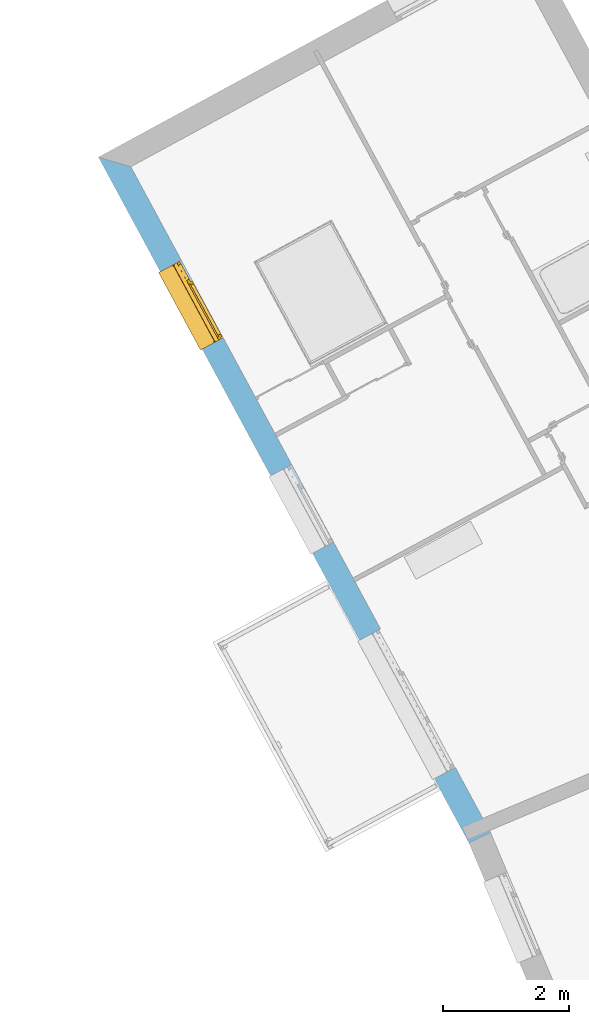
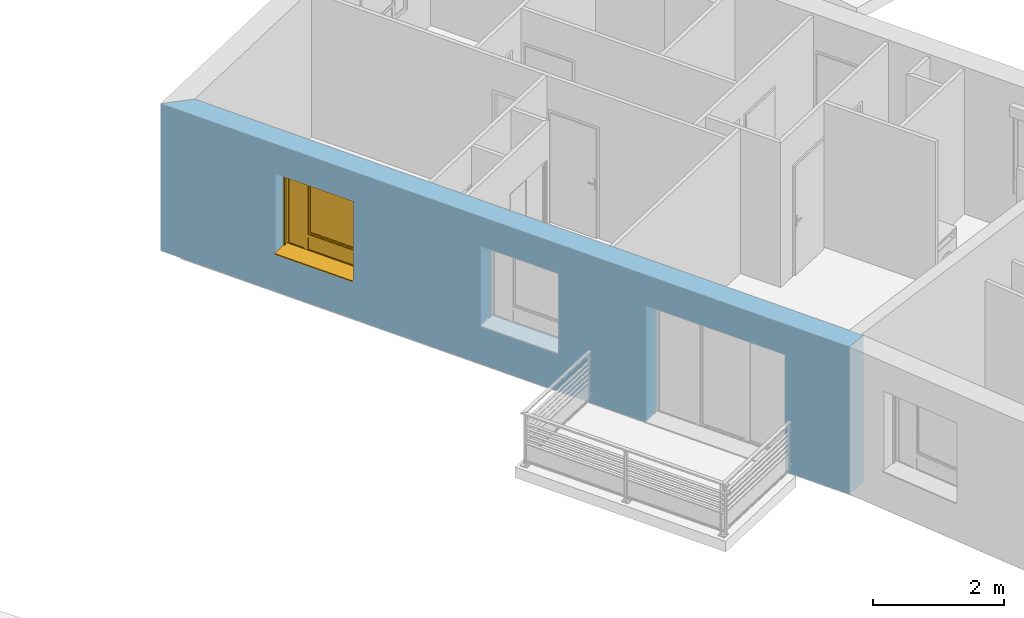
# One storey, part 52 of 121: 1 window, 3 openings, plus 1 element that does not belong to this part.
"""IFC2X3 building model written with IfcOpenShell, lengths in metres."""

import ifcopenshell
import ifcopenshell.guid

model = None  # the IFC model being written
_history = None  # IfcOwnerHistory: only IFC2X3 demands one
_inside = {}  # id of a spatial element -> (the spatial element, [elements in it])
_under = {}  # id of a project, library or spatial element -> (it, [spatial elements below it])
_declared = {}  # id of a project -> (the project, [libraries it declares])
_typed = {}  # id of a type object -> (the type object, [elements of that type])
_made_of = {}  # id of a material, layer set ... -> (it, [elements and type objects made of it])


def new_model(schema):
    """Start an empty IFC model of exactly this schema.

    Asked for "IFC4X3", IfcOpenShell would pick the latest addendum, in which some entities
    have other attributes; the version numbers below select the first issue.
    IFC2X3 requires an IfcOwnerHistory on every rooted entity: one is made here for all.
    """
    global model, _history
    if schema == "IFC4X3":
        model = ifcopenshell.file(schema_version=(4, 3, 0, 0))
    else:
        model = ifcopenshell.file(schema=schema)
    _inside.clear()
    _under.clear()
    _declared.clear()
    _typed.clear()
    _made_of.clear()
    _history = None
    if model.schema == "IFC2X3":
        org = make("IfcOrganization", Name="unknown")
        user = make(
            "IfcPersonAndOrganization",
            ThePerson=make("IfcPerson", FamilyName="unknown"),
            TheOrganization=org,
        )
        app = make(
            "IfcApplication",
            ApplicationDeveloper=org,
            Version="unknown",
            ApplicationFullName="unknown",
            ApplicationIdentifier="unknown",
        )
        _history = make(
            "IfcOwnerHistory",
            OwningUser=user,
            OwningApplication=app,
            ChangeAction="ADDED",
            CreationDate=0,
        )
    return model


def make(cls, **values):
    """One entity of the class cls with the attributes given. An attribute that is None is left unset."""
    return model.create_entity(
        cls, **{name: value for name, value in values.items() if value is not None}
    )


def entity(cls, *values):
    """Any entity or typed value of the class cls, its attributes in the order of the schema. None: left unset."""
    e = model.create_entity(cls)
    for i, value in enumerate(values):
        if value is not None:
            e[i] = value
    return e


def rooted(cls, **values):
    """An entity with a GlobalId (a new one), such as an element, a storey or a relation."""
    return make(cls, GlobalId=ifcopenshell.guid.new(), OwnerHistory=_history, **values)


def si_unit(unit_type, name, prefix=None):
    """IfcSIUnit, for example si_unit("LENGTHUNIT", "METRE", prefix="MILLI")."""
    return make("IfcSIUnit", UnitType=unit_type, Prefix=prefix, Name=name)


def converted_unit(unit_type, name, factor, base, dimensions=None, offset=None):
    """IfcConversionBasedUnit, such as the inch: factor (a typed value) times the base unit."""
    return make(
        "IfcConversionBasedUnit"
        if offset is None
        else "IfcConversionBasedUnitWithOffset",
        ConversionOffset=offset,
        Dimensions=None
        if dimensions is None
        else entity("IfcDimensionalExponents", *dimensions),
        UnitType=unit_type,
        Name=name,
        ConversionFactor=make(
            "IfcMeasureWithUnit", ValueComponent=factor, UnitComponent=base
        ),
    )


def derived_unit(unit_type, elements):
    """IfcDerivedUnit: a product of units, each with its exponent."""
    return make(
        "IfcDerivedUnit",
        Elements=[
            make("IfcDerivedUnitElement", Unit=unit, Exponent=power)
            for unit, power in elements
        ],
        UnitType=unit_type,
    )


def money_unit(currency):
    """IfcMonetaryUnit."""
    return make("IfcMonetaryUnit", Currency=currency)


def assignment(units):
    """IfcUnitAssignment: the units of a project."""
    return None if units is None else make("IfcUnitAssignment", Units=units)


def point(xyz):
    """IfcCartesianPoint."""
    return None if xyz is None else make("IfcCartesianPoint", Coordinates=xyz)


def direction(xyz):
    """IfcDirection."""
    return None if xyz is None else make("IfcDirection", DirectionRatios=xyz)


def frame(location, z_axis=None, x_axis=None):
    """IfcAxis2Placement3D, a coordinate frame: its origin and axes. An axis left out is left unset."""
    return make(
        "IfcAxis2Placement3D",
        Location=point(location),
        Axis=direction(z_axis),
        RefDirection=direction(x_axis),
    )


def origin_with_axes():
    """The frame at (0, 0, 0) with the z axis (0, 0, 1) and the x axis (1, 0, 0) written out."""
    return frame((0.0, 0.0, 0.0), z_axis=(0.0, 0.0, 1.0), x_axis=(1.0, 0.0, 0.0))


def place(relative_to, where):
    """IfcLocalPlacement: puts the frame where relative to a parent placement (None: the world)."""
    return make(
        "IfcLocalPlacement", PlacementRelTo=relative_to, RelativePlacement=where
    )


def context(
    kind, dimensions, precision=None, world=None, true_north=None, identifier=None
):
    """IfcGeometricRepresentationContext, for example the 3D "Model" context."""
    return make(
        "IfcGeometricRepresentationContext",
        ContextIdentifier=identifier,
        ContextType=kind,
        CoordinateSpaceDimension=dimensions,
        Precision=precision,
        WorldCoordinateSystem=world,
        TrueNorth=true_north,
    )


def subcontext(parent, identifier, kind, view, scale=None):
    """IfcGeometricRepresentationSubContext, for example "Body" below "Model"."""
    return make(
        "IfcGeometricRepresentationSubContext",
        ContextIdentifier=identifier,
        ContextType=kind,
        ParentContext=parent,
        TargetScale=scale,
        TargetView=view,
    )


def project(units=None, contexts=None):
    """IfcProject with its units and contexts."""
    return rooted(
        "IfcProject",
        Name="project",
        RepresentationContexts=contexts,
        UnitsInContext=assignment(units),
    )


def spatial(cls, under=None, at=None, **own):
    """A site, building, storey or space (cls), placed at a placement, below another one or the project."""
    s = rooted(cls, ObjectPlacement=at, **own)
    if under is not None:
        _under.setdefault(under.id(), (under, []))[1].append(s)
    return s


def polyline(points):
    """IfcPolyline through the points."""
    return make("IfcPolyline", Points=[point(p) for p in points])


def outline(outer, holes=None, kind="AREA"):
    """IfcArbitraryClosedProfileDef: a profile drawn as a closed curve; with holes, ...WithVoids."""
    if holes is None:
        return make("IfcArbitraryClosedProfileDef", ProfileType=kind, OuterCurve=outer)
    return make(
        "IfcArbitraryProfileDefWithVoids",
        ProfileType=kind,
        OuterCurve=outer,
        InnerCurves=holes,
    )


def extrude(swept, where, along, depth):
    """IfcExtrudedAreaSolid: the profile swept, set in the frame where, extruded along a direction by depth."""
    return make(
        "IfcExtrudedAreaSolid",
        SweptArea=swept,
        Position=where,
        ExtrudedDirection=direction(along),
        Depth=depth,
    )


def faces_of(points, faces, orient=None, outer=None):
    """IfcFace entities. A face is a list of loops; a loop is a list of indices into points, from 0.

    orient and outer hold one flag for each loop. By default every Orientation is true, the
    first loop of a face is its IfcFaceOuterBound and the others are IfcFaceBound.
    """
    made = []
    for i, loops in enumerate(faces):
        bounds = []
        for j, loop in enumerate(loops):
            is_outer = j == 0 if outer is None else outer[i][j]
            bounds.append(
                make(
                    "IfcFaceOuterBound" if is_outer else "IfcFaceBound",
                    Bound=make("IfcPolyLoop", Polygon=[points[k] for k in loop]),
                    Orientation=True if orient is None else orient[i][j],
                )
            )
        made.append(make("IfcFace", Bounds=bounds))
    return made


def open_shell(faces, orient=None, outer=None):
    """The faces of one IfcOpenShell. surface_model builds it on its shared points."""
    return ("IfcOpenShell", faces, orient, outer)


def faceted_brep(points, faces, orient=None, outer=None, voids=None):
    """IfcFacetedBrep: a solid bounded by flat faces; with voids (closed shells), ...WithVoids."""
    shared = [point(p) for p in points]
    hull = make("IfcClosedShell", CfsFaces=faces_of(shared, faces, orient, outer))
    if voids is None:
        return make("IfcFacetedBrep", Outer=hull)
    return make(
        "IfcFacetedBrepWithVoids",
        Outer=hull,
        Voids=[
            make(cls, CfsFaces=faces_of(shared, fs, o, b)) for cls, fs, o, b in voids
        ],
    )


def surface_model(cls, points, shells):
    """IfcFaceBasedSurfaceModel or IfcShellBasedSurfaceModel (cls): surfaces that need not close."""
    shared = [point(p) for p in points]
    made = [make(c, CfsFaces=faces_of(shared, fs, o, b)) for c, fs, o, b in shells]
    if cls == "IfcFaceBasedSurfaceModel":
        return make(cls, FbsmFaces=made)
    return make(cls, SbsmBoundary=made)


def shape(context_of_items, identifier, shape_type, items):
    """IfcShapeRepresentation: the items that make up one representation, for example the "Body"."""
    return make(
        "IfcShapeRepresentation",
        ContextOfItems=context_of_items,
        RepresentationIdentifier=identifier,
        RepresentationType=shape_type,
        Items=items,
    )


def source(mapping_origin, context_of_items, identifier, shape_type, items):
    """IfcRepresentationMap: a shape defined once, which mapped items show again and again."""
    return make(
        "IfcRepresentationMap",
        MappingOrigin=mapping_origin,
        MappedRepresentation=shape(context_of_items, identifier, shape_type, items),
    )


def transform(
    local_origin,
    x_axis=None,
    y_axis=None,
    z_axis=None,
    scale=None,
    scale2=None,
    scale3=None,
    uniform=True,
):
    """IfcCartesianTransformationOperator3D, or its non-uniform kind. x_axis, y_axis, z_axis: its Axis1, 2, 3."""
    if uniform:
        return make(
            "IfcCartesianTransformationOperator3D",
            Axis1=direction(x_axis),
            Axis2=direction(y_axis),
            LocalOrigin=point(local_origin),
            Scale=scale,
            Axis3=direction(z_axis),
        )
    return make(
        "IfcCartesianTransformationOperator3DnonUniform",
        Axis1=direction(x_axis),
        Axis2=direction(y_axis),
        LocalOrigin=point(local_origin),
        Scale=scale,
        Axis3=direction(z_axis),
        Scale2=scale2,
        Scale3=scale3,
    )


def mapped(mapping_source, mapping_target):
    """IfcMappedItem: shows the shape of a source again, moved by a transform."""
    return make(
        "IfcMappedItem", MappingSource=mapping_source, MappingTarget=mapping_target
    )


def material(Name=None, Category=None):
    """IfcMaterial."""
    return make("IfcMaterial", Name=Name, Category=Category)


def layer(
    of_material, thickness, ventilated=None, Name=None, Category=None, Priority=None
):
    """IfcMaterialLayer: one layer of a wall or slab, of a material (None: an air gap)."""
    return make(
        "IfcMaterialLayer",
        Material=of_material,
        LayerThickness=thickness,
        IsVentilated=ventilated,
        Name=Name,
        Category=Category,
        Priority=Priority,
    )


def layer_set(layers, Name=None):
    """IfcMaterialLayerSet."""
    return make("IfcMaterialLayerSet", MaterialLayers=layers, LayerSetName=Name)


def layer_usage(for_layer_set, set_direction, sense, offset, extent=None):
    """IfcMaterialLayerSetUsage: how a layer set lies in its element."""
    return make(
        "IfcMaterialLayerSetUsage",
        ForLayerSet=for_layer_set,
        LayerSetDirection=set_direction,
        DirectionSense=sense,
        OffsetFromReferenceLine=offset,
        ReferenceExtent=extent,
    )


def made_of(thing, what):
    """Note that an element or type object is made of a material, layer set ...; save() writes the relation."""
    if what is not None:
        _made_of.setdefault(what.id(), (what, []))[1].append(thing)
    return thing


def type_object(cls, material=None, **own):
    """A type object (cls), such as IfcWallType, which elements share."""
    return made_of(rooted(cls, **own), material)


def element(
    cls,
    number,
    at=None,
    inside=None,
    cuts=None,
    type_object=None,
    material=None,
    context=None,
    identifier="Body",
    shape_type=None,
    held_by="IfcProductDefinitionShape",
    body=None,
    shapes=None,
    **own,
):
    """One element of the class cls, such as IfcWall. Its Tag is "e" and its number.

    at: its placement. inside: the storey or other place that contains it. cuts: it is an
    opening in that element (IfcRelVoidsElement). A single representation is given by context,
    identifier, shape_type and body (its items); several are given by shapes. held_by: the class
    of the entity that holds the representations. save() writes the other relations.
    """
    e = rooted(cls, Tag="e%d" % number, ObjectPlacement=at, **own)
    if body is not None:
        shapes = [shape(context, identifier, shape_type, body)]
    if shapes is not None:
        e.Representation = make(held_by, Representations=shapes)
    if inside is not None:
        _inside.setdefault(inside.id(), (inside, []))[1].append(e)
    if cuts is not None:
        rooted(
            "IfcRelVoidsElement", RelatingBuildingElement=cuts, RelatedOpeningElement=e
        )
    if type_object is not None:
        _typed.setdefault(type_object.id(), (type_object, []))[1].append(e)
    return made_of(e, material)


def fill(opening, filler):
    """IfcRelFillsElement: the door or window that sits in an opening."""
    return rooted(
        "IfcRelFillsElement",
        RelatingOpeningElement=opening,
        RelatedBuildingElement=filler,
    )


def aggregate(whole, parts):
    """IfcRelAggregates: a whole, such as a stair, and the parts it consists of."""
    return rooted("IfcRelAggregates", RelatingObject=whole, RelatedObjects=parts)


def save(model, path):
    """Write the relations noted so far, then the file.

    IfcRelAggregates (storeys below a building ...), IfcRelContainedInSpatialStructure (elements
    in a storey), IfcRelDefinesByType, IfcRelAssociatesMaterial and IfcRelDeclares: one each for
    every whole, place, type object, material and project.
    """
    for whole, parts in _under.values():
        aggregate(whole, parts)
    for where, things in _inside.values():
        rooted(
            "IfcRelContainedInSpatialStructure",
            RelatedElements=things,
            RelatingStructure=where,
        )
    for kind, things in _typed.values():
        rooted("IfcRelDefinesByType", RelatedObjects=things, RelatingType=kind)
    for what, things in _made_of.values():
        rooted("IfcRelAssociatesMaterial", RelatedObjects=things, RelatingMaterial=what)
    for by, libraries in _declared.values():
        rooted("IfcRelDeclares", RelatingContext=by, RelatedDefinitions=libraries)
    model.write(path)


model = new_model("IFC2X3")

# Units and contexts
model_context = context("Model", 3, precision=1e-05, world=origin_with_axes(), true_north=direction((0.0, 1.0)))
body_context = subcontext(model_context, "Body", "Model", "MODEL_VIEW")
ifc_project = project(units=[si_unit("LENGTHUNIT", "METRE"), si_unit("AREAUNIT", "SQUARE_METRE"), si_unit("VOLUMEUNIT", "CUBIC_METRE"), converted_unit("PLANEANGLEUNIT", "DEGREE", entity("IfcPlaneAngleMeasure", 0.0174532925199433), si_unit("PLANEANGLEUNIT", "RADIAN"), dimensions=[0, 0, 0, 0, 0, 0, 0]), money_unit("CHF"), converted_unit("TIMEUNIT", "Year", entity("IfcTimeMeasure", 31557600.0), si_unit("TIMEUNIT", "SECOND"), dimensions=[0, 0, 1, 0, 0, 0, 0]), si_unit("MASSUNIT", "GRAM", prefix="KILO"), si_unit("THERMODYNAMICTEMPERATUREUNIT", "DEGREE_CELSIUS"), si_unit("LUMINOUSINTENSITYUNIT", "LUMEN"), si_unit("ENERGYUNIT", "JOULE", prefix="MEGA"), derived_unit("THERMALCONDUCTANCEUNIT", [(si_unit("POWERUNIT", "WATT"), 1), (si_unit("LENGTHUNIT", "METRE"), -1), (si_unit("THERMODYNAMICTEMPERATUREUNIT", "KELVIN"), -1)]), derived_unit("SPECIFICHEATCAPACITYUNIT", [(si_unit("ENERGYUNIT", "JOULE"), 1), (si_unit("MASSUNIT", "GRAM", prefix="KILO"), -1), (si_unit("THERMODYNAMICTEMPERATUREUNIT", "KELVIN"), -1)]), derived_unit("MASSDENSITYUNIT", [(si_unit("MASSUNIT", "GRAM", prefix="KILO"), 1), (si_unit("VOLUMEUNIT", "CUBIC_METRE"), -1)])], contexts=[model_context])

# Site, building, storey
site_placement = place(None, origin_with_axes())
site = spatial("IfcSite", under=ifc_project, at=site_placement, Name="Site", CompositionType="ELEMENT")
building_placement = place(site_placement, origin_with_axes())
building = spatial("IfcBuilding", under=site, at=building_placement, Name="Bâtiment", CompositionType="ELEMENT")
storey_placement = place(building_placement, frame((0.0, 0.0, 2.75), z_axis=(0.0, 0.0, 1.0), x_axis=(1.0, 0.0, 0.0)))
storey = spatial("IfcBuildingStorey", under=building, at=storey_placement, Name="Etage 1", CompositionType="ELEMENT", Elevation=2.75)

# Wall, openings, window
ifc_material_1 = material(Name="Parpaing 312445824")
ifc_layer_1 = layer(ifc_material_1, 0.22, ventilated="UNKNOWN")
ifc_material_2 = material(Name="Isolant styromousse 301821074")
ifc_layer_2 = layer(ifc_material_2, 0.16, ventilated="UNKNOWN")
ifc_layer_set = layer_set([ifc_layer_1, ifc_layer_2], Name="isol int 22+16 0836643197")
ifc_layer_usage = layer_usage(ifc_layer_set, "AXIS2", "NEGATIVE", 0.0)
wall_type = type_object("IfcWallType", Name="isol int 22+16 0836643197 380", PredefinedType="NOTDEFINED")
wall_placement = place(storey_placement, frame((9560.431539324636, -1038.56391735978, 57.7), z_axis=(0.0, 0.0, 1.0), x_axis=(-0.4753186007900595, 0.8798137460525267, 0.0)))
wall = element("IfcWallStandardCase", 1, at=wall_placement, inside=storey, type_object=wall_type, material=ifc_layer_usage, Name="Mur-114", context=body_context, shape_type="SweptSolid", body=[
    extrude(outline(polyline([(-0.0183016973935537, -0.3799999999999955), (12.00124293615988, -0.3799999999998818), (12.38026927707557, 0.0), (0.0, 0.0), (-0.0183016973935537, -0.3799999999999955)])), origin_with_axes(), (0.0, 0.0, 1.0), 2.75),
])
opening_1_placement = place(wall_placement, frame((5.925867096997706, 0.0, 0.7000000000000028), z_axis=(0.0, 0.0, 1.0), x_axis=(1.0, 0.0, 0.0)))
element("IfcOpeningElement", 2, at=opening_1_placement, cuts=wall, Name="Fen-045", context=body_context, shape_type="Brep", body=[
    faceted_brep([(0.6999999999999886, -0.4800000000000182, 1.5), (-0.6999999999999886, -0.4799999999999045, 1.5), (-0.6999999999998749, -5.558327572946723, 1.5), (0.7000000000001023, -5.558327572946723, 1.5), (0.6999999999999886, -0.4800000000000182, 1.700000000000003), (-0.6999999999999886, -0.4799999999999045, 1.700000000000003), (-0.6999999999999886, -0.2999999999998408, 1.5), (-0.6999999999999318, -0.2999999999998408, 0.0), (-0.6999999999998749, -5.558327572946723, 0.0), (0.7000000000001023, -5.558327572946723, 0.0), (0.6999999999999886, -0.2999999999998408, 1.5), (0.7000000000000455, -0.2999999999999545, 0.0), (0.7000000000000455, -0.2200000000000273, 1.5), (0.7000000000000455, -0.2200000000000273, 1.700000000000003), (-0.6999999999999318, -0.2199999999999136, 1.700000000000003), (-0.6999999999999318, -0.2199999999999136, 1.5), (-0.6999999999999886, 5.178327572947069, 1.5), (-0.6999999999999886, 5.178327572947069, 0.0), (0.6999999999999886, 5.178327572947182, 0.0), (0.6999999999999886, 5.178327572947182, 1.5)], [[[0, 1, 2, 3]], [[1, 0, 4, 5]], [[1, 6, 7, 8, 2]], [[2, 8, 9, 3]], [[10, 0, 3, 9, 11]], [[0, 10, 12, 13, 4]], [[4, 13, 14, 5]], [[6, 1, 5, 14, 15]], [[6, 15, 16, 17, 7]], [[7, 11, 9, 8]], [[12, 10, 11, 18, 19]], [[12, 15, 14, 13]], [[15, 12, 19, 16]], [[19, 18, 17, 16]], [[11, 7, 17, 18]]]),
])
opening_2_placement = place(wall_placement, frame((2.406972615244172, 0.0, 0.0), z_axis=(0.0, 0.0, 1.0), x_axis=(1.0, 0.0, 0.0)))
element("IfcOpeningElement", 3, at=opening_2_placement, cuts=wall, Name="Fen-045", context=body_context, shape_type="Brep", body=[
    faceted_brep([(1.250000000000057, -0.4800000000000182, 2.18), (-1.25, -0.4800000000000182, 2.18), (-1.25, -5.558327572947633, 2.18), (1.25, -5.558327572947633, 2.18), (1.250000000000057, -0.4800000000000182, 2.380000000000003), (-1.25, -0.4800000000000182, 2.380000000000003), (-1.249999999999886, -0.3000000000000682, 2.18), (-1.25, -0.3000000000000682, 0.0), (-1.25, -5.558327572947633, 0.0), (1.25, -5.558327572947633, 0.0), (1.250000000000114, -0.3000000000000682, 2.18), (1.250000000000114, -0.3000000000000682, 0.0), (1.250000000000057, -0.2199999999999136, 2.18), (1.250000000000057, -0.2199999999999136, 2.380000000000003), (-1.25, -0.2200000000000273, 2.380000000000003), (-1.25, -0.2200000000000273, 2.18), (-1.25, 5.178327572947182, 2.18), (-1.25, 5.178327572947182, 0.0), (1.25, 5.178327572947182, 0.0), (1.25, 5.178327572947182, 2.18)], [[[0, 1, 2, 3]], [[1, 0, 4, 5]], [[1, 6, 7, 8, 2]], [[2, 8, 9, 3]], [[10, 0, 3, 9, 11]], [[0, 10, 12, 13, 4]], [[4, 13, 14, 5]], [[6, 1, 5, 14, 15]], [[6, 15, 16, 17, 7]], [[7, 11, 9, 8]], [[12, 10, 11, 18, 19]], [[12, 15, 14, 13]], [[15, 12, 19, 16]], [[19, 18, 17, 16]], [[11, 7, 17, 18]]]),
])
opening_3_placement = place(wall_placement, frame((9.612364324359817, 0.0, 0.7000000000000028), z_axis=(0.0, 0.0, 1.0), x_axis=(1.0, 0.0, 0.0)))
opening_3 = element("IfcOpeningElement", 4, at=opening_3_placement, cuts=wall, Name="Fen-045", context=body_context, shape_type="Brep", body=[
    faceted_brep([(0.7000000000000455, -0.4799999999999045, 1.5), (-0.6999999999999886, -0.4799999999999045, 1.5), (-0.6999999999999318, -5.558327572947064, 1.5), (0.7000000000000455, -5.558327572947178, 1.5), (0.7000000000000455, -0.4799999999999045, 1.700000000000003), (-0.6999999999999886, -0.4799999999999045, 1.700000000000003), (-0.6999999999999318, -0.2999999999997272, 1.5), (-0.6999999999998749, -0.2999999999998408, 0.0), (-0.6999999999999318, -5.558327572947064, 0.0), (0.7000000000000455, -5.558327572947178, 0.0), (0.7000000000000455, -0.2999999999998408, 1.5), (0.7000000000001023, -0.2999999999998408, 0.0), (0.6999999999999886, -0.2199999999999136, 1.5), (0.6999999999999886, -0.2199999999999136, 1.700000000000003), (-0.6999999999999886, -0.2199999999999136, 1.700000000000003), (-0.6999999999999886, -0.2199999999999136, 1.5), (-0.6999999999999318, 5.178327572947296, 1.5), (-0.6999999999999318, 5.178327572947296, 0.0), (0.7000000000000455, 5.178327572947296, 0.0), (0.7000000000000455, 5.178327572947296, 1.5)], [[[0, 1, 2, 3]], [[1, 0, 4, 5]], [[1, 6, 7, 8, 2]], [[2, 8, 9, 3]], [[10, 0, 3, 9, 11]], [[0, 10, 12, 13, 4]], [[4, 13, 14, 5]], [[6, 1, 5, 14, 15]], [[6, 15, 16, 17, 7]], [[7, 11, 9, 8]], [[12, 10, 11, 18, 19]], [[12, 15, 14, 13]], [[15, 12, 19, 16]], [[19, 18, 17, 16]], [[11, 7, 17, 18]]]),
])
window_style = type_object("IfcWindowStyle", Name="Fenêtre variable 27", ConstructionType="NOTDEFINED", OperationType="TRIPLE_PANEL_LEFT", ParameterTakesPrecedence=False, Sizeable=False)
shared_shape = source(origin_with_axes(), body_context, "Body", "SurfaceModel", [
    surface_model("IfcShellBasedSurfaceModel", [(0.7, -0.05100000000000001, 0.05), (-0.7, -0.05100000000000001, 0.05000000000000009), (-0.7, -0.05100000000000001, 0.04000000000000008), (0.7, -0.05100000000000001, 0.04), (-0.7, -0.3799999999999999, 0.02900000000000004), (0.7, -0.3799999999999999, 0.02899999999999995), (-0.7, -0.3799999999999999, 0.00900000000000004), (0.7, -0.3799999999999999, 0.008999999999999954), (-0.7, -0.3699999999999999, 0.01900000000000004), (0.7, -0.3699999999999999, 0.01899999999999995)], [open_shell([[[0, 1, 2, 3]], [[3, 2, 4, 5]], [[5, 4, 6, 7]], [[7, 6, 8, 9]]])]),
    faceted_brep([(0.7, -0.13, 1.7), (0.7, 0.13, 1.7), (0.697, 0.13, 1.7), (0.697, -0.13, 1.7), (0.7, -0.13, 1.5), (0.7, 0.13, 1.5), (0.697, 0.13, 1.5), (0.697, -0.13, 1.5)], [[[0, 1, 2, 3]], [[0, 4, 5, 1]], [[1, 5, 6, 2]], [[3, 2, 6, 7]], [[4, 0, 3, 7]], [[5, 4, 7, 6]]]),
    faceted_brep([(-0.6970000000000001, -0.1299999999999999, 1.7), (-0.6970000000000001, 0.1300000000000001, 1.7), (-0.7000000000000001, 0.1300000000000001, 1.7), (-0.7000000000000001, -0.1299999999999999, 1.7), (-0.6970000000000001, -0.1299999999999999, 1.5), (-0.6970000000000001, 0.1300000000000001, 1.5), (-0.7000000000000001, 0.1300000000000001, 1.5), (-0.7000000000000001, -0.1299999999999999, 1.5)], [[[0, 1, 2, 3]], [[0, 4, 5, 1]], [[1, 5, 6, 2]], [[3, 2, 6, 7]], [[4, 0, 3, 7]], [[5, 4, 7, 6]]]),
    faceted_brep([(0.697, -0.13, 1.5), (0.697, -0.13, 1.7), (-0.697, -0.1299999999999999, 1.7), (-0.697, -0.1299999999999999, 1.5), (0.697, -0.127, 1.5), (0.697, -0.127, 1.697), (0.697, 0.127, 1.697), (0.697, 0.127, 1.503), (0.697, -0.108, 1.503), (0.697, -0.108, 1.5), (0.697, 0.13, 1.5), (0.697, 0.13, 1.7), (-0.697, 0.1300000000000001, 1.7), (-0.697, 0.1300000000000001, 1.5), (-0.697, -0.1079999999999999, 1.5), (-0.697, -0.1079999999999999, 1.503), (-0.697, 0.1270000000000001, 1.503), (-0.697, 0.1270000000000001, 1.697), (-0.697, -0.1269999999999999, 1.697), (-0.697, -0.1269999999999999, 1.5)], [[[0, 1, 2, 3]], [[0, 4, 5, 6, 7, 8, 9, 10, 11, 1]], [[1, 11, 12, 2]], [[3, 2, 12, 13, 14, 15, 16, 17, 18, 19]], [[4, 0, 3, 19]], [[5, 4, 19, 18]], [[6, 5, 18, 17]], [[7, 6, 17, 16]], [[8, 7, 16, 15]], [[9, 8, 15, 14]], [[10, 9, 14, 13]], [[11, 10, 13, 12]]]),
    faceted_brep([(0.694, -0.08075423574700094, 1.585760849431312), (0.694, -0.07705479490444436, 1.571954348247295), (0.694, -0.07101408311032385, 1.559), (0.694, -0.06281564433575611, 1.547291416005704), (0.694, -0.05270858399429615, 1.537184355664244), (0.694, -0.04099999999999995, 1.528985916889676), (0.694, -0.02804565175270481, 1.522945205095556), (0.694, -0.01423915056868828, 1.519245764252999), (0.694, 0.0, 1.518), (0.694, 0.01423915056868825, 1.519245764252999), (0.694, 0.02804565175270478, 1.522945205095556), (0.694, 0.04099999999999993, 1.528985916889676), (0.694, 0.05270858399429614, 1.537184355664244), (0.694, 0.06281564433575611, 1.547291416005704), (0.694, 0.07101408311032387, 1.559), (0.694, 0.07705479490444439, 1.571954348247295), (0.694, 0.08075423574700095, 1.585760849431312), (0.694, 0.0819999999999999, 1.6), (0.694, 0.08075423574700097, 1.614239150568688), (0.694, 0.0770547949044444, 1.628045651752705), (0.694, 0.07101408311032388, 1.641), (0.694, 0.06281564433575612, 1.652708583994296), (0.694, 0.05270858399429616, 1.662815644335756), (0.694, 0.04099999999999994, 1.671014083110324), (0.694, 0.02804565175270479, 1.677054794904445), (0.694, 0.01423915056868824, 1.680754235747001), (0.694, 0.0, 1.682), (0.694, -0.01423915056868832, 1.680754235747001), (0.694, -0.02804565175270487, 1.677054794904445), (0.694, -0.04100000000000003, 1.671014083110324), (0.694, -0.05270858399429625, 1.662815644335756), (0.694, -0.06281564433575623, 1.652708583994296), (0.694, -0.07101408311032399, 1.641), (0.694, -0.07705479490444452, 1.628045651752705), (0.694, -0.0807542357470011, 1.614239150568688), (0.694, -0.08200000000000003, 1.6), (-0.694, -0.08075423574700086, 1.585760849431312), (-0.694, -0.07705479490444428, 1.571954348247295), (-0.694, -0.07101408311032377, 1.559), (-0.694, -0.06281564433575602, 1.547291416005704), (-0.694, -0.05270858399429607, 1.537184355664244), (-0.694, -0.04099999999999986, 1.528985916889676), (-0.694, -0.02804565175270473, 1.522945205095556), (-0.694, -0.0142391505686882, 1.519245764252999), (-0.694, 0.0, 1.518), (-0.694, 0.01423915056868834, 1.519245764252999), (-0.694, 0.02804565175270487, 1.522945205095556), (-0.694, 0.04100000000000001, 1.528985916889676), (-0.694, 0.05270858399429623, 1.537184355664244), (-0.694, 0.06281564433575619, 1.547291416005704), (-0.694, 0.07101408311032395, 1.559), (-0.694, 0.07705479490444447, 1.571954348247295), (-0.694, 0.08075423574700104, 1.585760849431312), (-0.694, 0.08199999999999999, 1.6), (-0.694, 0.08075423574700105, 1.614239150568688), (-0.694, 0.07705479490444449, 1.628045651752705), (-0.694, 0.07101408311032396, 1.641), (-0.694, 0.0628156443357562, 1.652708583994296), (-0.694, 0.05270858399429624, 1.662815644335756), (-0.694, 0.04100000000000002, 1.671014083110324), (-0.694, 0.02804565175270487, 1.677054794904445), (-0.694, 0.01423915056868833, 1.680754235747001), (-0.694, 0.0, 1.682), (-0.694, -0.01423915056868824, 1.680754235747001), (-0.694, -0.02804565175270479, 1.677054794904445), (-0.694, -0.04099999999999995, 1.671014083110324), (-0.694, -0.05270858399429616, 1.662815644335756), (-0.694, -0.06281564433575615, 1.652708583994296), (-0.694, -0.07101408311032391, 1.641), (-0.694, -0.07705479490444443, 1.628045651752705), (-0.694, -0.08075423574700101, 1.614239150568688), (-0.694, -0.08199999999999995, 1.6)], [[[0, 1, 2, 3, 4, 5, 6, 7, 8, 9, 10, 11, 12, 13, 14, 15, 16, 17, 18, 19, 20, 21, 22, 23, 24, 25, 26, 27, 28, 29, 30, 31, 32, 33, 34, 35]], [[1, 0, 36, 37]], [[2, 1, 37, 38]], [[3, 2, 38, 39]], [[4, 3, 39, 40]], [[5, 4, 40, 41]], [[6, 5, 41, 42]], [[7, 6, 42, 43]], [[8, 7, 43, 44]], [[9, 8, 44, 45]], [[10, 9, 45, 46]], [[11, 10, 46, 47]], [[12, 11, 47, 48]], [[13, 12, 48, 49]], [[14, 13, 49, 50]], [[15, 14, 50, 51]], [[16, 15, 51, 52]], [[17, 16, 52, 53]], [[18, 17, 53, 54]], [[19, 18, 54, 55]], [[20, 19, 55, 56]], [[21, 20, 56, 57]], [[22, 21, 57, 58]], [[23, 22, 58, 59]], [[24, 23, 59, 60]], [[25, 24, 60, 61]], [[26, 25, 61, 62]], [[27, 26, 62, 63]], [[28, 27, 63, 64]], [[29, 28, 64, 65]], [[30, 29, 65, 66]], [[31, 30, 66, 67]], [[32, 31, 67, 68]], [[33, 32, 68, 69]], [[34, 33, 69, 70]], [[35, 34, 70, 71]], [[0, 35, 71, 36]], [[36, 71, 70, 69, 68, 67, 66, 65, 64, 63, 62, 61, 60, 59, 58, 57, 56, 55, 54, 53, 52, 51, 50, 49, 48, 47, 46, 45, 44, 43, 42, 41, 40, 39, 38, 37]]]),
    faceted_brep([(-0.7, -0.105, 0.03), (-0.7, -0.13, 0.03), (-0.7, -0.1299999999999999, 1.5), (-0.7, -0.1049999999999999, 1.5), (-0.6749999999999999, -0.105, 0.03), (-0.6749999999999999, -0.108, 0.03), (-0.697, -0.108, 0.03), (-0.697, -0.127, 0.03), (-0.6749999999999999, -0.127, 0.03), (-0.6749999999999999, -0.13, 0.03), (-0.6749999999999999, -0.1299999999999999, 1.5), (-0.6749999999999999, -0.1269999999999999, 1.5), (-0.697, -0.1269999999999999, 1.5), (-0.697, -0.1079999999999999, 1.5), (-0.6749999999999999, -0.1079999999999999, 1.5), (-0.6749999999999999, -0.1049999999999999, 1.5)], [[[0, 1, 2, 3]], [[0, 4, 5, 6, 7, 8, 9, 1]], [[1, 9, 10, 2]], [[3, 2, 10, 11, 12, 13, 14, 15]], [[4, 0, 3, 15]], [[5, 4, 15, 14]], [[6, 5, 14, 13]], [[7, 6, 13, 12]], [[8, 7, 12, 11]], [[9, 8, 11, 10]]]),
    faceted_brep([(0.7, -0.105, 0.03), (0.7, -0.1049999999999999, 1.5), (0.7, -0.1299999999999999, 1.5), (0.7, -0.13, 0.03), (0.6749999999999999, -0.105, 0.03), (0.6749999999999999, -0.1049999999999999, 1.5), (0.6749999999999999, -0.1079999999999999, 1.5), (0.697, -0.1079999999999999, 1.5), (0.697, -0.1269999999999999, 1.5), (0.6749999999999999, -0.1269999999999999, 1.5), (0.6749999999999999, -0.1299999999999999, 1.5), (0.6749999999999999, -0.13, 0.03), (0.6749999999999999, -0.127, 0.03), (0.697, -0.127, 0.03), (0.697, -0.108, 0.03), (0.6749999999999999, -0.108, 0.03)], [[[0, 1, 2, 3]], [[4, 5, 1, 0]], [[1, 5, 6, 7, 8, 9, 10, 2]], [[3, 2, 10, 11]], [[0, 3, 11, 12, 13, 14, 15, 4]], [[15, 6, 5, 4]], [[14, 7, 6, 15]], [[13, 8, 7, 14]], [[12, 9, 8, 13]], [[11, 10, 9, 12]]]),
    surface_model("IfcShellBasedSurfaceModel", [(0.697, -0.115, 1.6), (-0.697, -0.1149999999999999, 1.6), (-0.697, -0.12, 1.6), (0.697, -0.12, 1.6), (0.697, -0.115, 1.6), (0.697, -0.12, 1.6), (-0.697, -0.1199999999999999, 1.6), (-0.697, -0.1149999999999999, 1.6)], [open_shell([[[0, 1, 2, 3]], [[4, 5, 6, 7]]])]),
    faceted_brep([(0.697, -0.115, 1.6), (0.697, -0.1166666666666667, 1.583333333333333), (-0.697, -0.1166666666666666, 1.583333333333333), (-0.697, -0.1149999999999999, 1.6), (0.697, -0.12, 1.6), (0.697, -0.1216666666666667, 1.583333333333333), (0.697, -0.1216666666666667, 1.566666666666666), (0.697, -0.12, 1.55), (0.697, -0.115, 1.55), (0.697, -0.1166666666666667, 1.566666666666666), (-0.697, -0.1166666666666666, 1.566666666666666), (-0.697, -0.1149999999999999, 1.55), (-0.697, -0.1199999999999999, 1.55), (-0.697, -0.1216666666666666, 1.566666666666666), (-0.697, -0.1216666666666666, 1.583333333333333), (-0.697, -0.1199999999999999, 1.6)], [[[0, 1, 2, 3]], [[0, 4, 5, 6, 7, 8, 9, 1]], [[1, 9, 10, 2]], [[3, 2, 10, 11, 12, 13, 14, 15]], [[4, 0, 3, 15]], [[5, 4, 15, 14]], [[6, 5, 14, 13]], [[7, 6, 13, 12]], [[8, 7, 12, 11]], [[9, 8, 11, 10]]]),
    faceted_brep([(0.697, -0.115, 1.55), (0.697, -0.1166666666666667, 1.533333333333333), (-0.697, -0.1166666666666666, 1.533333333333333), (-0.697, -0.1149999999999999, 1.55), (0.697, -0.12, 1.55), (0.697, -0.1216666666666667, 1.533333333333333), (0.697, -0.1216666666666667, 1.516666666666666), (0.697, -0.12, 1.5), (0.697, -0.115, 1.5), (0.697, -0.1166666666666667, 1.516666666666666), (-0.697, -0.1166666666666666, 1.516666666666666), (-0.697, -0.1149999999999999, 1.5), (-0.697, -0.1199999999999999, 1.5), (-0.697, -0.1216666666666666, 1.516666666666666), (-0.697, -0.1216666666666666, 1.533333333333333), (-0.697, -0.1199999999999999, 1.55)], [[[0, 1, 2, 3]], [[0, 4, 5, 6, 7, 8, 9, 1]], [[1, 9, 10, 2]], [[3, 2, 10, 11, 12, 13, 14, 15]], [[4, 0, 3, 15]], [[5, 4, 15, 14]], [[6, 5, 14, 13]], [[7, 6, 13, 12]], [[8, 7, 12, 11]], [[9, 8, 11, 10]]]),
    faceted_brep([(0.6749999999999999, 0.0, 1.45), (0.6749999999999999, -0.02500000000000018, 1.45), (0.6499999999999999, -0.02500000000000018, 1.45), (0.6499999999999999, -0.05000000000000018, 1.45), (0.7, -0.05000000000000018, 1.45), (0.7, 0.0, 1.45), (0.6749999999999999, 0.0, 0.3099999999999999), (0.6749999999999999, -0.02500000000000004, 0.3099999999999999), (0.6499999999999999, -0.02500000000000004, 0.335), (0.6499999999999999, -0.02500000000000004, 0.3099999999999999), (0.6499999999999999, -0.05000000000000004, 0.335), (0.6499999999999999, -0.05000000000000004, 0.265), (0.6499999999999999, -0.05000000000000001, 0.05000000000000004), (0.7, -0.05000000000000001, 0.05000000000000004), (0.7, 0.0, 0.05000000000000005), (0.6499999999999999, 0.0, 0.05000000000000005), (0.6499999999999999, 0.0, 0.265), (0.6499999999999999, 0.0, 0.3099999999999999)], [[[0, 1, 2, 3, 4, 5]], [[1, 0, 6, 7]], [[8, 2, 1, 7, 9]], [[2, 8, 10, 3]], [[10, 11, 12, 13, 4, 3]], [[5, 4, 13, 14]], [[6, 0, 5, 14, 15, 16, 17]], [[6, 17, 9, 7]], [[9, 17, 16, 11, 10, 8]], [[15, 12, 11, 16]], [[14, 13, 12, 15]]]),
    faceted_brep([(-0.3068894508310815, -0.02500000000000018, 1.45), (-0.3318894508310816, -0.02500000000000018, 1.45), (-0.3318894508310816, 0.0, 1.45), (-0.3768894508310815, 0.0, 1.45), (-0.3768894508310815, -0.05000000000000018, 1.45), (-0.3068894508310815, -0.05000000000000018, 1.45), (-0.3068894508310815, -0.02500000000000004, 0.335), (-0.3068894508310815, -0.02500000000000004, 0.3099999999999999), (-0.3318894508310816, -0.02500000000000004, 0.3099999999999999), (-0.3318894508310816, 0.0, 0.3099999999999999), (-0.3068894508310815, 0.0, 0.3099999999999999), (-0.3068894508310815, 0.0, 0.265), (-0.3068894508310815, 0.0, 0.05000000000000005), (-0.3768894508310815, 0.0, 0.05000000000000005), (-0.3768894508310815, -0.05000000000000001, 0.05000000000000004), (-0.3068894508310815, -0.05000000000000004, 0.265), (-0.3068894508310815, -0.05000000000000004, 0.335), (-0.3068894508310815, -0.05000000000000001, 0.05000000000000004)], [[[0, 1, 2, 3, 4, 5]], [[1, 0, 6, 7, 8]], [[9, 2, 1, 8]], [[9, 10, 11, 12, 13, 3, 2]], [[13, 14, 4, 3]], [[15, 16, 5, 4, 14, 17]], [[6, 0, 5, 16]], [[7, 6, 16, 15, 11, 10]], [[10, 9, 8, 7]], [[11, 15, 17, 12]], [[12, 17, 14, 13]]]),
    faceted_brep([(0.6499999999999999, -0.02500000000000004, 0.335), (-0.3068894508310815, -0.02500000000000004, 0.335), (-0.3068894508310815, -0.05000000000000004, 0.335), (0.6499999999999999, -0.05000000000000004, 0.335), (-0.3068894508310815, -0.02500000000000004, 0.3099999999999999), (0.6499999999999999, -0.02500000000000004, 0.3099999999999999), (-0.3068894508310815, 0.0, 0.3099999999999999), (-0.3068894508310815, 0.0, 0.265), (-0.3068894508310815, -0.05000000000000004, 0.265), (0.6499999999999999, -0.05000000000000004, 0.265), (0.6499999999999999, 0.0, 0.265), (0.6499999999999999, 0.0, 0.3099999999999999)], [[[0, 1, 2, 3]], [[4, 1, 0, 5]], [[4, 6, 7, 8, 2, 1]], [[2, 8, 9, 3]], [[5, 0, 3, 9, 10, 11]], [[11, 6, 4, 5]], [[6, 11, 10, 7]], [[10, 9, 8, 7]]]),
    faceted_brep([(0.6749999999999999, 0.0, 1.45), (0.6749999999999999, 0.0, 1.475), (-0.3318894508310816, 0.0, 1.475), (-0.3318894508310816, 0.0, 1.45), (-0.3768894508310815, 0.0, 1.45), (-0.6499999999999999, 0.0, 1.45), (-0.7, 0.0, 1.45), (-0.7, 0.0, 1.5), (0.7, 0.0, 1.5), (0.7, 0.0, 1.45), (0.6749999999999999, -0.02500000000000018, 1.45), (0.6749999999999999, -0.02500000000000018, 1.475), (-0.3318894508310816, -0.02500000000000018, 1.475), (-0.3318894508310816, -0.02500000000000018, 1.45), (-0.3068894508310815, -0.02500000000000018, 1.45), (-0.3068894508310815, -0.05000000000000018, 1.45), (-0.3768894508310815, -0.05000000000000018, 1.45), (-0.6499999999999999, -0.05000000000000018, 1.45), (-0.7, -0.05000000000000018, 1.45), (-0.7, -0.05000000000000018, 1.5), (0.7, -0.05000000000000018, 1.5), (0.7, -0.05000000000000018, 1.45), (0.6499999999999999, -0.05000000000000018, 1.45), (0.6499999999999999, -0.02500000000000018, 1.45)], [[[0, 1, 2, 3, 4, 5, 6, 7, 8, 9]], [[1, 0, 10, 11]], [[2, 1, 11, 12]], [[3, 2, 12, 13]], [[13, 14, 15, 16, 4, 3]], [[4, 16, 17, 5]], [[5, 17, 18, 6]], [[6, 18, 19, 7]], [[7, 19, 20, 8]], [[8, 20, 21, 9]], [[10, 0, 9, 21, 22, 23]], [[14, 13, 12, 11, 10, 23]], [[14, 23, 22, 15]], [[16, 15, 22, 21, 20, 19, 18, 17]]]),
    faceted_brep([(-0.6499999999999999, -0.05000000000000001, 0.05), (-0.7, -0.05000000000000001, 0.05), (-0.7, 0.0, 0.05000000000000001), (-0.6499999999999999, 0.0, 0.05000000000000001), (-0.6499999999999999, -0.05000000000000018, 1.45), (-0.7, -0.05000000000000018, 1.45), (-0.7, 0.0, 1.45), (-0.6499999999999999, 0.0, 1.45)], [[[0, 1, 2, 3]], [[0, 4, 5, 1]], [[1, 5, 6, 2]], [[3, 2, 6, 7]], [[4, 0, 3, 7]], [[5, 4, 7, 6]]]),
    faceted_brep([(0.6499999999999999, -0.05000000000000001, 0.05), (0.7, -0.05000000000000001, 0.05), (0.7, 0.0, 0.05000000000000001), (0.6499999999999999, 0.0, 0.05000000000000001), (-0.3068894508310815, -0.05000000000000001, 0.05), (-0.3768894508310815, -0.05000000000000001, 0.05), (-0.6499999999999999, -0.05000000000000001, 0.05), (-0.7, -0.05000000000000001, 0.05), (-0.7, -0.05, 0.0), (0.7, -0.05, 0.0), (0.7, 0.0, 0.0), (-0.7, 0.0, 0.0), (-0.7, 0.0, 0.05000000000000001), (-0.6499999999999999, 0.0, 0.05000000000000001), (-0.3768894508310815, 0.0, 0.05000000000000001), (-0.3068894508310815, 0.0, 0.05000000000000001)], [[[0, 1, 2, 3]], [[0, 4, 5, 6, 7, 8, 9, 1]], [[1, 9, 10, 2]], [[3, 2, 10, 11, 12, 13, 14, 15]], [[4, 0, 3, 15]], [[5, 4, 15, 14]], [[6, 5, 14, 13]], [[7, 6, 13, 12]], [[8, 7, 12, 11]], [[9, 8, 11, 10]]]),
    faceted_brep([(0.625, -0.02500000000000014, 1.425), (0.6749999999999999, -0.02500000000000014, 1.425), (0.6749999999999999, 0.02499999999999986, 1.425), (0.625, 0.02499999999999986, 1.425), (0.625, -0.02500000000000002, 0.3599999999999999), (0.6749999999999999, -0.02500000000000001, 0.3599999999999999), (0.6749999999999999, 0.02499999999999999, 0.3599999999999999), (0.625, 0.02499999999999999, 0.3599999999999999)], [[[0, 1, 2, 3]], [[0, 4, 5, 1]], [[1, 5, 6, 2]], [[3, 2, 6, 7]], [[4, 0, 3, 7]], [[5, 4, 7, 6]]]),
    faceted_brep([(-0.2818894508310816, -0.02500000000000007, 0.3599999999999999), (-0.3318894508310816, -0.02500000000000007, 0.3599999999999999), (-0.3318894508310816, 0.02499999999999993, 0.3599999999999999), (-0.2818894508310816, 0.02499999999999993, 0.3599999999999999), (-0.2818894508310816, -0.0250000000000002, 1.425), (-0.3318894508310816, -0.0250000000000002, 1.425), (-0.3318894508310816, 0.0249999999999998, 1.425), (-0.2818894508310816, 0.0249999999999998, 1.425)], [[[0, 1, 2, 3]], [[0, 4, 5, 1]], [[1, 5, 6, 2]], [[3, 2, 6, 7]], [[4, 0, 3, 7]], [[5, 4, 7, 6]]]),
    faceted_brep([(-0.3318894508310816, -0.02500000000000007, 0.3099999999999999), (-0.3318894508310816, -0.02500000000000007, 0.3599999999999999), (-0.3318894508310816, 0.02499999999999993, 0.3599999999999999), (-0.3318894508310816, 0.02499999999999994, 0.3099999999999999), (0.6749999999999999, -0.025, 0.3099999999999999), (0.6749999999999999, -0.02500000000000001, 0.3599999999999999), (0.625, -0.02500000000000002, 0.3599999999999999), (-0.2818894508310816, -0.02500000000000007, 0.3599999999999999), (-0.2818894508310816, 0.02499999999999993, 0.3599999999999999), (0.625, 0.02499999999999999, 0.3599999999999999), (0.6749999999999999, 0.02499999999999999, 0.3599999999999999), (0.6749999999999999, 0.02499999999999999, 0.3099999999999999)], [[[0, 1, 2, 3]], [[0, 4, 5, 6, 7, 1]], [[1, 7, 8, 2]], [[3, 2, 8, 9, 10, 11]], [[4, 0, 3, 11]], [[5, 4, 11, 10]], [[6, 5, 10, 9]], [[7, 6, 9, 8]]]),
    faceted_brep([(0.6749999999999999, -0.02500000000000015, 1.475), (0.6749999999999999, -0.02500000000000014, 1.425), (0.6749999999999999, 0.02499999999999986, 1.425), (0.6749999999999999, 0.02499999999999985, 1.475), (-0.3318894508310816, -0.02500000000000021, 1.475), (-0.3318894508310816, -0.0250000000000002, 1.425), (-0.2818894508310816, -0.0250000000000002, 1.425), (0.625, -0.02500000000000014, 1.425), (0.625, 0.02499999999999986, 1.425), (-0.2818894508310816, 0.0249999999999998, 1.425), (-0.3318894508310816, 0.0249999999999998, 1.425), (-0.3318894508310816, 0.02499999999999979, 1.475)], [[[0, 1, 2, 3]], [[0, 4, 5, 6, 7, 1]], [[1, 7, 8, 2]], [[3, 2, 8, 9, 10, 11]], [[4, 0, 3, 11]], [[5, 4, 11, 10]], [[6, 5, 10, 9]], [[7, 6, 9, 8]]]),
    surface_model("IfcShellBasedSurfaceModel", [(0.625, -0.01000000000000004, 0.3599999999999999), (0.625, -0.01000000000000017, 1.425), (-0.2818894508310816, -0.01000000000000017, 1.425), (-0.2818894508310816, -0.01000000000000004, 0.3599999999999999)], [open_shell([[[0, 1, 2, 3]]])]),
    surface_model("IfcShellBasedSurfaceModel", [(0.625, 0.009999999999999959, 0.3599999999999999), (-0.2818894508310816, 0.009999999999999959, 0.3599999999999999), (-0.2818894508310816, 0.00999999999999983, 1.425), (0.625, 0.00999999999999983, 1.425)], [open_shell([[[0, 1, 2, 3]]])]),
    surface_model("IfcShellBasedSurfaceModel", [(-0.3768894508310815, -0.035, 0.05), (-0.3768894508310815, -0.03500000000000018, 1.45), (-0.65, -0.03500000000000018, 1.45), (-0.65, -0.035, 0.05)], [open_shell([[[0, 1, 2, 3]]])]),
    surface_model("IfcShellBasedSurfaceModel", [(-0.3768894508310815, -0.015, 0.05), (-0.65, -0.015, 0.05), (-0.65, -0.01500000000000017, 1.45), (-0.3768894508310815, -0.01500000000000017, 1.45)], [open_shell([[[0, 1, 2, 3]]])]),
    surface_model("IfcShellBasedSurfaceModel", [(0.6499999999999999, -0.035, 0.05), (0.6499999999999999, -0.03500000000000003, 0.265), (-0.3068894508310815, -0.03500000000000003, 0.265), (-0.3068894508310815, -0.035, 0.05)], [open_shell([[[0, 1, 2, 3]]])]),
    surface_model("IfcShellBasedSurfaceModel", [(0.6499999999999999, -0.015, 0.05), (-0.3068894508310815, -0.015, 0.05), (-0.3068894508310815, -0.01500000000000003, 0.265), (0.6499999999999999, -0.01500000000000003, 0.265)], [open_shell([[[0, 1, 2, 3]]])]),
])
window_placement = place(opening_3_placement, frame((0.6999999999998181, 0.0, 0.0), z_axis=(0.0, 0.0, 1.0), x_axis=(-1.0, 0.0, 0.0)))
window = element("IfcWindow", 5, at=window_placement, inside=storey, type_object=window_style, Name="Fen-045", OverallHeight=1.5, OverallWidth=1.4, context=body_context, shape_type="MappedRepresentation", body=[
    mapped(shared_shape, transform((0.6999999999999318, 0.3500000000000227, 0.0))),
])
fill(opening_3, window)

save(model, "model.ifc")
